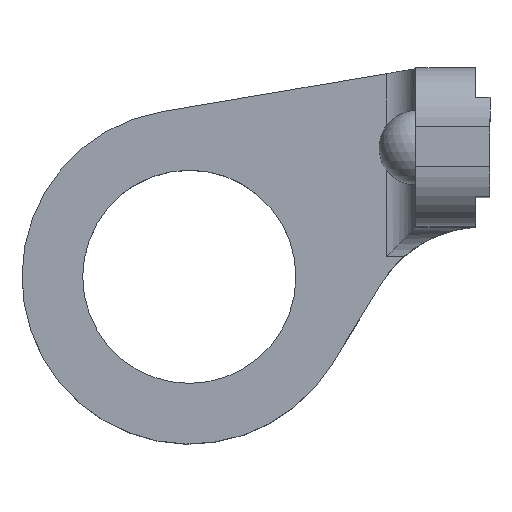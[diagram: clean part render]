
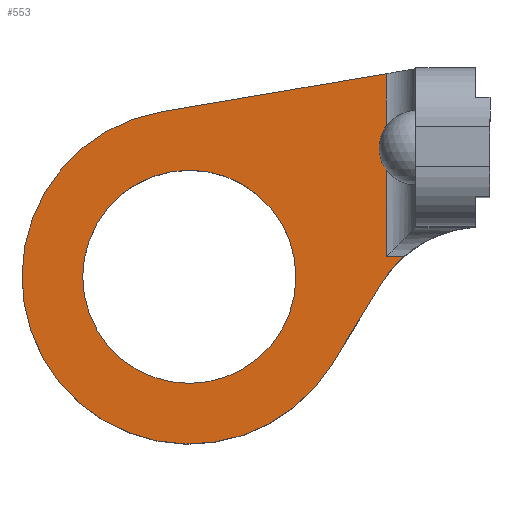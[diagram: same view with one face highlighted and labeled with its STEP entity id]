
A CAD part, top view. The second image highlights one B-rep face of the part: STEP entity #553.
In plain terms, the highlighted planar face has unit normal (0, 0, 1) as drawn and (0, 1, 0) by its records, which use the part's own axes.
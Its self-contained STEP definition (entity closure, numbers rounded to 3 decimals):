
#77=VECTOR('',#650,1.);
#85=VECTOR('',#678,1.);
#86=VECTOR('',#679,1.);
#87=VECTOR('',#682,1.);
#88=VECTOR('',#685,1.);
#126=LINE('',#811,#77);
#134=LINE('',#859,#85);
#135=LINE('',#861,#86);
#136=LINE('',#865,#87);
#137=LINE('',#869,#88);
#177=VERTEX_POINT('',#810);
#178=VERTEX_POINT('',#812);
#189=VERTEX_POINT('',#854);
#190=VERTEX_POINT('',#858);
#191=VERTEX_POINT('',#860);
#192=VERTEX_POINT('',#862);
#193=VERTEX_POINT('',#864);
#194=VERTEX_POINT('',#866);
#195=VERTEX_POINT('',#868);
#229=CIRCLE('',#592,2.952);
#230=CIRCLE('',#594,9.144);
#231=CIRCLE('',#595,14.351);
#232=CIRCLE('',#596,10.16);
#253=EDGE_CURVE('',#177,#178,#126,.T.);
#268=EDGE_CURVE('',#177,#189,#229,.T.);
#269=EDGE_CURVE('',#190,#190,#230,.T.);
#270=EDGE_CURVE('',#191,#189,#134,.T.);
#271=EDGE_CURVE('',#192,#191,#135,.T.);
#272=EDGE_CURVE('',#193,#192,#231,.T.);
#273=EDGE_CURVE('',#194,#193,#136,.T.);
#274=EDGE_CURVE('',#195,#194,#232,.T.);
#275=EDGE_CURVE('',#178,#195,#137,.T.);
#358=ORIENTED_EDGE('',*,*,#269,.F.);
#359=ORIENTED_EDGE('',*,*,#268,.T.);
#360=ORIENTED_EDGE('',*,*,#270,.F.);
#361=ORIENTED_EDGE('',*,*,#271,.F.);
#362=ORIENTED_EDGE('',*,*,#272,.F.);
#363=ORIENTED_EDGE('',*,*,#273,.F.);
#364=ORIENTED_EDGE('',*,*,#274,.F.);
#365=ORIENTED_EDGE('',*,*,#275,.F.);
#366=ORIENTED_EDGE('',*,*,#253,.F.);
#484=EDGE_LOOP('',(#358));
#485=EDGE_LOOP('',(#359,#360,#361,#362,#363,#364,#365,#366));
#519=FACE_BOUND('',#484,.T.);
#520=FACE_BOUND('',#485,.T.);
#553=ADVANCED_FACE('',(#519,#520),#1009,.T.);
#592=AXIS2_PLACEMENT_3D('',#855,#673,#674);
#593=AXIS2_PLACEMENT_3D('',#856,#675,$);
#594=AXIS2_PLACEMENT_3D('',#857,#676,#677);
#595=AXIS2_PLACEMENT_3D('',#863,#680,#681);
#596=AXIS2_PLACEMENT_3D('',#867,#683,#684);
#650=DIRECTION('',(0.,0.,-1.));
#673=DIRECTION('',(0.,-1.,0.));
#674=DIRECTION('',(0.,0.,-2.952));
#675=DIRECTION('',(0.,1.,0.));
#676=DIRECTION('',(0.,1.,0.));
#677=DIRECTION('',(9.144,0.,0.));
#678=DIRECTION('',(0.,0.,-1.));
#679=DIRECTION('',(-0.986,0.,0.167));
#680=DIRECTION('',(0.,-1.,0.));
#681=DIRECTION('',(14.351,0.,0.));
#682=DIRECTION('',(0.522,0.,-0.853));
#683=DIRECTION('',(0.,1.,0.));
#684=DIRECTION('',(0.625,0.,10.141));
#685=DIRECTION('',(-1.,0.,0.));
#810=CARTESIAN_POINT('',(24.13,5.182,-11.157));
#811=CARTESIAN_POINT('',(24.13,5.182,-13.721));
#812=CARTESIAN_POINT('',(24.13,5.182,-18.987));
#854=CARTESIAN_POINT('',(24.13,5.182,-8.147));
#855=CARTESIAN_POINT('',(21.59,5.182,-9.652));
#856=CARTESIAN_POINT('',(37.111,5.182,-17.791));
#857=CARTESIAN_POINT('',(41.021,5.182,-20.701));
#858=CARTESIAN_POINT('',(50.165,5.182,-20.701));
#859=CARTESIAN_POINT('',(24.13,5.182,-13.721));
#860=CARTESIAN_POINT('',(24.13,5.182,-3.287));
#861=CARTESIAN_POINT('',(43.416,5.182,-6.551));
#862=CARTESIAN_POINT('',(43.416,5.182,-6.551));
#863=CARTESIAN_POINT('',(41.021,5.182,-20.701));
#864=CARTESIAN_POINT('',(28.781,5.182,-28.194));
#865=CARTESIAN_POINT('',(21.59,5.182,-16.447));
#866=CARTESIAN_POINT('',(24.551,5.182,-21.283));
#867=CARTESIAN_POINT('',(15.885,5.182,-26.587));
#868=CARTESIAN_POINT('',(22.627,5.182,-18.987));
#869=CARTESIAN_POINT('',(28.08,5.182,-18.987));
#1009=PLANE('',#593);
